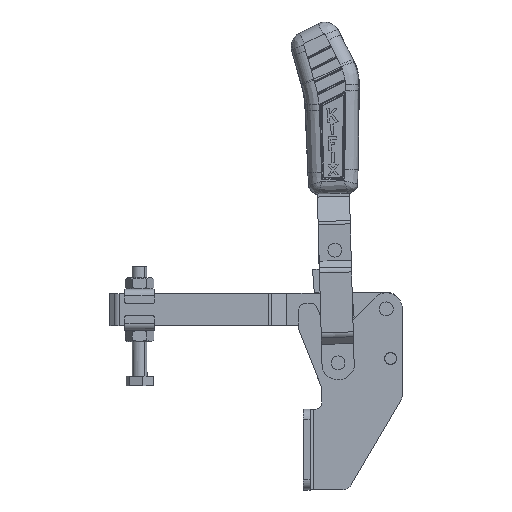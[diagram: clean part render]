
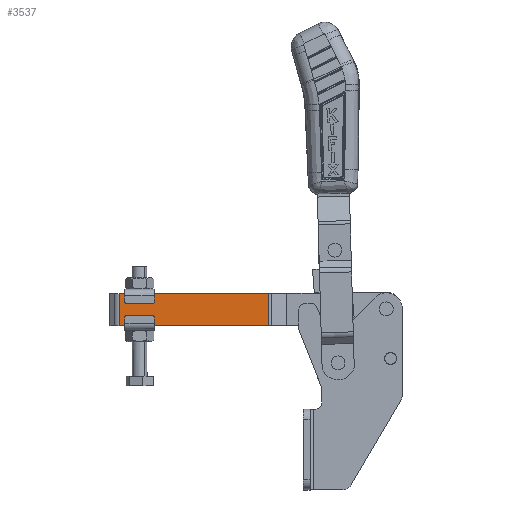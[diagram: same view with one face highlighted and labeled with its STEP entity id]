
A CAD part, top view. The second image highlights one B-rep face of the part: STEP entity #3537.
In plain terms, the highlighted planar face has unit normal (0, 0, 1) as drawn and (0, 1, 0) by its records, which use the part's own axes.
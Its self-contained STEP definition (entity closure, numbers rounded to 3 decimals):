
#82 = LINE ( 'NONE', #16293, #15661 ) ;
#741 = CARTESIAN_POINT ( 'NONE',  ( -108.456, 0., 11. ) ) ;
#911 = ORIENTED_EDGE ( 'NONE', *, *, #14088, .F. ) ;
#2485 = EDGE_LOOP ( 'NONE', ( #26066, #911, #4462, #15832 ) ) ;
#3537 = ADVANCED_FACE ( 'NONE', ( #3947 ), #16361, .T. ) ;
#3947 = FACE_OUTER_BOUND ( 'NONE', #2485, .T. ) ;
#3990 = VECTOR ( 'NONE', #12909, 1000. ) ;
#4462 = ORIENTED_EDGE ( 'NONE', *, *, #25790, .F. ) ;
#4556 = EDGE_CURVE ( 'NONE', #24547, #4939, #82, .T. ) ;
#4939 = VERTEX_POINT ( 'NONE', #15652 ) ;
#6133 = AXIS2_PLACEMENT_3D ( 'NONE', #6247, #24539, #12359 ) ;
#6247 = CARTESIAN_POINT ( 'NONE',  ( -109.5, 0., 11. ) ) ;
#6331 = CARTESIAN_POINT ( 'NONE',  ( -6.004, 0., -11. ) ) ;
#7988 = DIRECTION ( 'NONE',  ( 1., 0., 0. ) ) ;
#11808 = EDGE_CURVE ( 'NONE', #13300, #4939, #12980, .T. ) ;
#12359 = DIRECTION ( 'NONE',  ( 0., 0., 1. ) ) ;
#12909 = DIRECTION ( 'NONE',  ( 0., 0., -1. ) ) ;
#12980 = LINE ( 'NONE', #16061, #18393 ) ;
#13300 = VERTEX_POINT ( 'NONE', #16116 ) ;
#13580 = VECTOR ( 'NONE', #17058, 1000. ) ;
#14088 = EDGE_CURVE ( 'NONE', #19105, #24547, #24392, .T. ) ;
#14346 = DIRECTION ( 'NONE',  ( 0., 0., 1. ) ) ;
#14805 = LINE ( 'NONE', #741, #3990 ) ;
#15652 = CARTESIAN_POINT ( 'NONE',  ( -6.004, 0., 11. ) ) ;
#15661 = VECTOR ( 'NONE', #14346, 1000. ) ;
#15832 = ORIENTED_EDGE ( 'NONE', *, *, #11808, .T. ) ;
#16061 = CARTESIAN_POINT ( 'NONE',  ( -109.5, 0., 11. ) ) ;
#16116 = CARTESIAN_POINT ( 'NONE',  ( -108.456, 0., 11. ) ) ;
#16293 = CARTESIAN_POINT ( 'NONE',  ( -6.004, 0., 11. ) ) ;
#16361 = PLANE ( 'NONE',  #6133 ) ;
#17058 = DIRECTION ( 'NONE',  ( 1., 0., 0. ) ) ;
#18201 = CARTESIAN_POINT ( 'NONE',  ( -108.456, 0., -11. ) ) ;
#18393 = VECTOR ( 'NONE', #7988, 1000. ) ;
#19024 = CARTESIAN_POINT ( 'NONE',  ( -109.5, 0., -11. ) ) ;
#19105 = VERTEX_POINT ( 'NONE', #18201 ) ;
#24392 = LINE ( 'NONE', #19024, #13580 ) ;
#24539 = DIRECTION ( 'NONE',  ( 0., 1., 0. ) ) ;
#24547 = VERTEX_POINT ( 'NONE', #6331 ) ;
#25790 = EDGE_CURVE ( 'NONE', #13300, #19105, #14805, .T. ) ;
#26066 = ORIENTED_EDGE ( 'NONE', *, *, #4556, .F. ) ;
